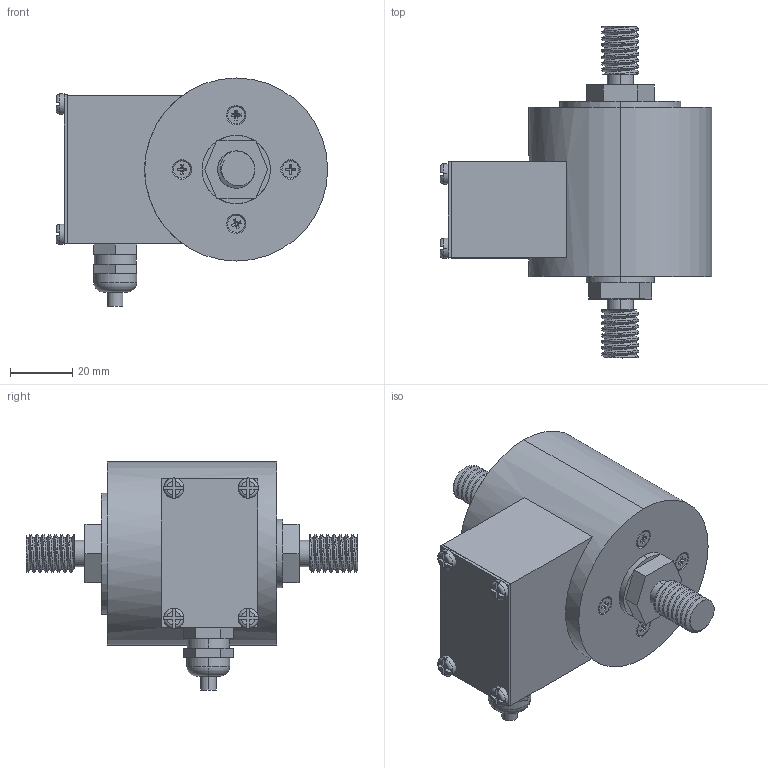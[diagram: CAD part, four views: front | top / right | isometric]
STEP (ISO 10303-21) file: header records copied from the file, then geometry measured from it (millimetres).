
FILE_DESCRIPTION (( 'STEP AP214' ), '1' );
FILE_NAME ('KT1101_K_1KN.STEP', '2014-04-23T11:28:40', ( '' ), ( '' ), 'SwSTEP 2.0', 'SolidWorks 2012', '' );
FILE_SCHEMA (( 'AUTOMOTIVE_DESIGN' ));
Length unit declared in the file: metre
Products named in the file (1): KT1101_K_1KN
Bounding box: 87.5 x 107 x 73.5 mm (x, y, z)
Surface area: 25177.1 mm2 (no closed solid volume)
Topology: 0 solids, 8 shells, 264 faces, 662 edges, 412 vertices
Faces by surface type: plane 164, cylinder 70, torus 18, cone 8, bspline 4
Entity records: 12813 total; most frequent: CARTESIAN_POINT 5776, ORIENTED_EDGE 1260, DIRECTION 1244, EDGE_CURVE 662, AXIS2_PLACEMENT_3D 429, VERTEX_POINT 412, LINE 386, VECTOR 386
